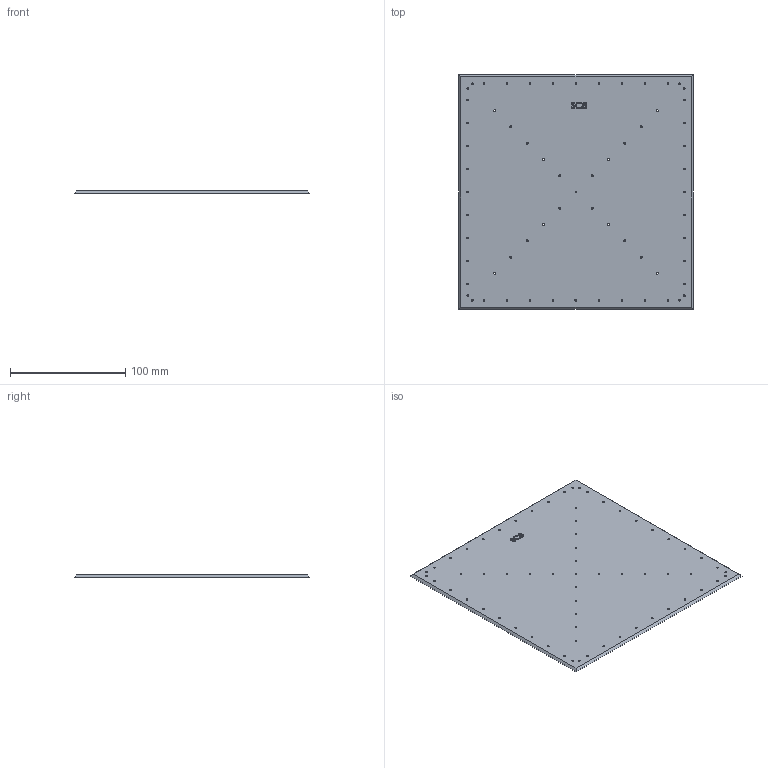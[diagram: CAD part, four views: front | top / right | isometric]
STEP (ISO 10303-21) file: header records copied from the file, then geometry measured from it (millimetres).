
FILE_DESCRIPTION (( 'STEP AP214' ), '1' );
FILE_NAME ('SC8.STEP', '2016-02-27T08:00:13', ( '' ), ( '' ), 'SwSTEP 2.0', 'SolidWorks 2012', '' );
FILE_SCHEMA (( 'AUTOMOTIVE_DESIGN' ));
Length unit declared in the file: millimetre
Products named in the file (1): SC8
Bounding box: 204 x 204 x 2 mm (x, y, z)
Volume: 81346.8 mm3; surface area: 84301.3 mm2
Topology: 1 solids, 1 shells, 186 faces, 537 edges, 358 vertices
Faces by surface type: cylinder 130, bspline 41, plane 15
Entity records: 8617 total; most frequent: CARTESIAN_POINT 3451, ORIENTED_EDGE 1074, DIRECTION 1007, EDGE_CURVE 537, AXIS2_PLACEMENT_3D 406, VERTEX_POINT 358, EDGE_LOOP 321, CIRCLE 260
